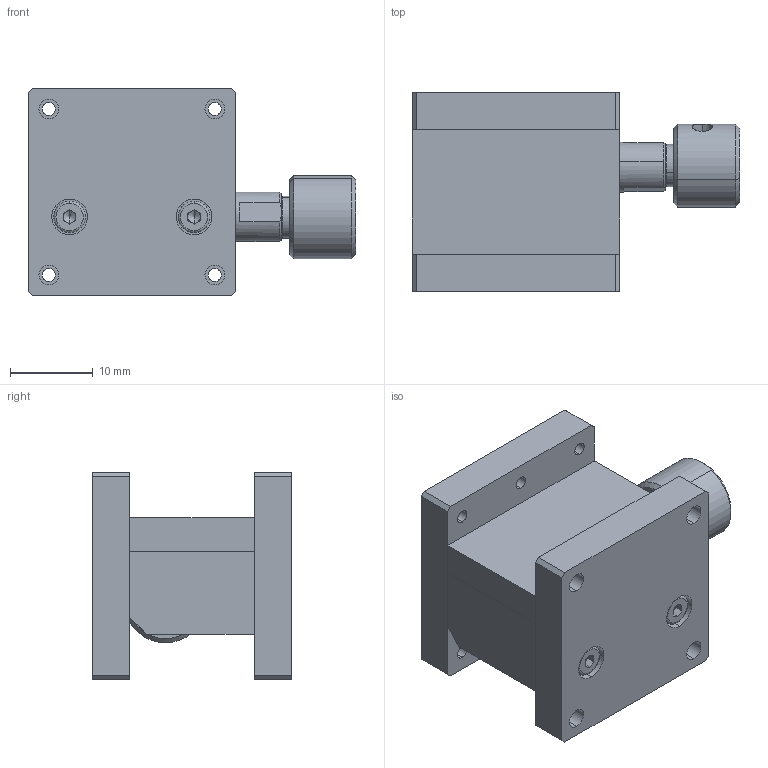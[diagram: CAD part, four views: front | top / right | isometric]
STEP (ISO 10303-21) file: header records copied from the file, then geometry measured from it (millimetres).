
FILE_DESCRIPTION (( 'STEP AP203' ), '1' );
FILE_NAME ('BFGZ25.STEP', '2024-02-27T06:01:46', ( 'China' ), ( 'Microsoft' ), 'SwSTEP 2.0', 'SolidWorks 2024', '' );
FILE_SCHEMA (( 'CONFIG_CONTROL_DESIGN' ));
Products named in the file (1): BFGZ25
Bounding box: 39.5 x 24 x 25 mm (x, y, z)
Volume: 10956.6 mm3; surface area: 9217.8 mm2
Topology: 13 solids, 13 shells, 428 faces, 1062 edges, 663 vertices
Faces by surface type: plane 228, cylinder 114, cone 55, bspline 21, torus 10
Entity records: 65983 total; most frequent: CARTESIAN_POINT 55851, DIRECTION 2096, ORIENTED_EDGE 2076, EDGE_CURVE 1038, AXIS2_PLACEMENT_3D 745, VERTEX_POINT 663, LINE 606, VECTOR 606
